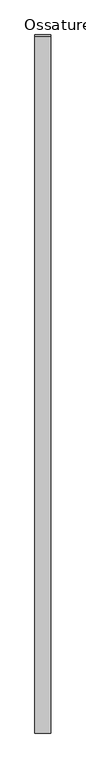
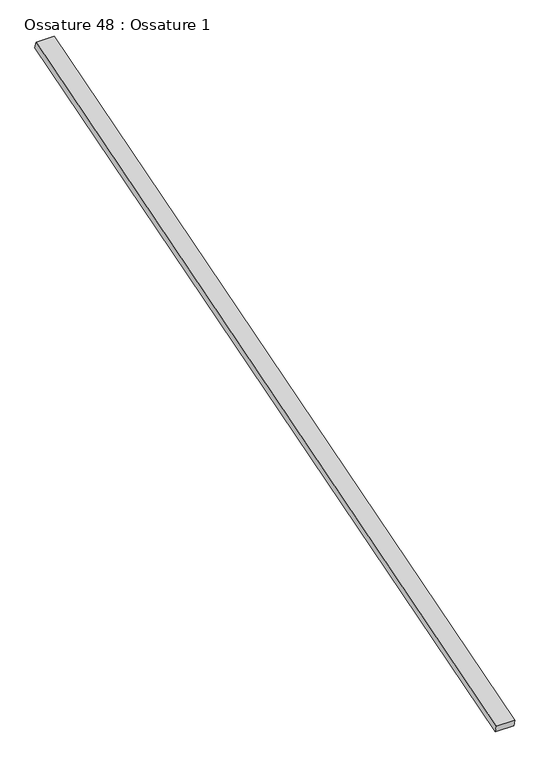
"""IFC4 building model written with IfcOpenShell, lengths in millimetres: beam geometry, Ossature 48 : Ossature 1."""

from ifc_helpers import new_model, si_unit, frame, origin, place, context, project, spatial, polyline, outline, extrude, source, transform, mapped, element, save


def ossature_48_ossature_1_0714c28a(model_context):
    return source(origin(), model_context, "Body", "SweptSolid", [
        extrude(outline(polyline([(0.0, 0.0), (0.0, -4543.0299679), (-100.0, -4543.0299679), (-100.0, 0.0), (0.0, 0.0)])), frame((11730.0466393, -833.3913565, 8153.6336115), z_axis=(0.0, -0.28734788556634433, 0.9578262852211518), x_axis=(-1.0, 0.0, 0.0)), (0.0, 0.0, 1.0), 40.0),
    ])


if __name__ == "__main__":
    model = new_model("IFC4")
    model_context = context("Model", 3, world=origin())
    ifc_project = project(units=[si_unit("LENGTHUNIT", "METRE", prefix="MILLI")], contexts=[model_context])
    site = spatial("IfcSite", under=ifc_project)
    building = spatial("IfcBuilding", under=site)
    placement = place(None, origin())
    ossature_48_ossature_1_shape = ossature_48_ossature_1_0714c28a(model_context)
    element("IfcBeam", 1, ObjectType="Ossature 48 : Ossature 1", at=placement, inside=building, context=model_context, shape_type="MappedRepresentation", body=[
        mapped(ossature_48_ossature_1_shape, transform((0.0, 0.0, 0.0), x_axis=(1.0, 0.0, 0.0), y_axis=(0.0, 1.0, 0.0), z_axis=(0.0, 0.0, 1.0))),
    ])
    save(model, "model.ifc")
